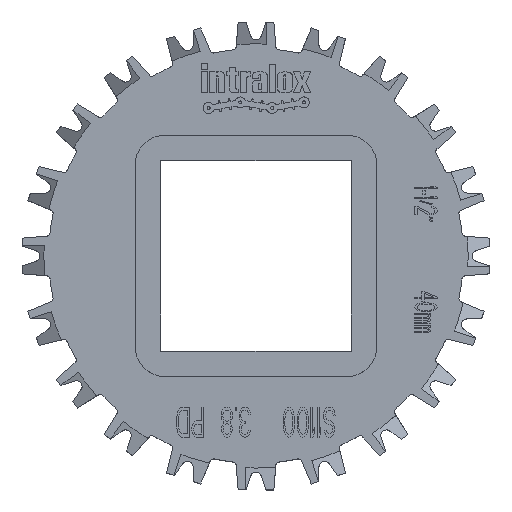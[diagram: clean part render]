
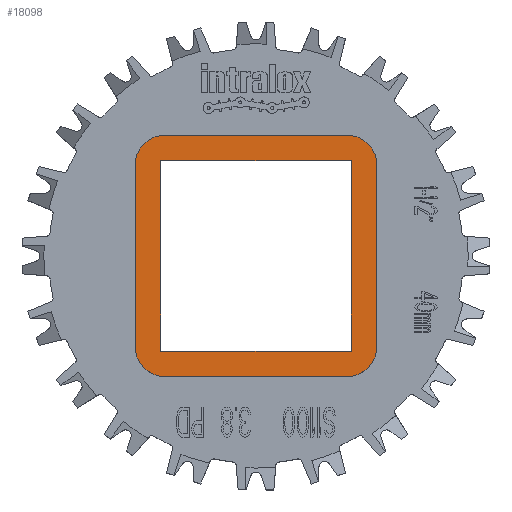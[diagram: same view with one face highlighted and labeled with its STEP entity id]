
A CAD part, top view. The second image highlights one B-rep face of the part: STEP entity #18098.
In plain terms, the highlighted planar face has unit normal (0, 0, 1).
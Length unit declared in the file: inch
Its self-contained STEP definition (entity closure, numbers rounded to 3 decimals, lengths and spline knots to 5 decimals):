
#1=DIRECTION('',(-1.,0.,0.));
#2=VECTOR('',#1,1.5);
#3=CARTESIAN_POINT('',(0.75,1.,0.49));
#4=LINE('',#3,#2);
#5=DIRECTION('',(0.,1.,0.));
#6=VECTOR('',#5,1.5);
#7=CARTESIAN_POINT('',(1.,-0.75,0.49));
#8=LINE('',#7,#6);
#9=DIRECTION('',(1.,0.,0.));
#10=VECTOR('',#9,1.5);
#11=CARTESIAN_POINT('',(-0.75,-1.,0.49));
#12=LINE('',#11,#10);
#13=DIRECTION('',(0.,-1.,0.));
#14=VECTOR('',#13,1.5);
#15=CARTESIAN_POINT('',(-1.,0.75,0.49));
#16=LINE('',#15,#14);
#17=DIRECTION('',(0.,-1.,0.));
#18=VECTOR('',#17,1.575);
#19=CARTESIAN_POINT('',(-0.7875,0.7875,0.49));
#20=LINE('',#19,#18);
#21=DIRECTION('',(1.,0.,0.));
#22=VECTOR('',#21,1.575);
#23=CARTESIAN_POINT('',(-0.7875,-0.7875,0.49));
#24=LINE('',#23,#22);
#25=DIRECTION('',(0.,1.,0.));
#26=VECTOR('',#25,1.575);
#27=CARTESIAN_POINT('',(0.7875,-0.7875,0.49));
#28=LINE('',#27,#26);
#29=DIRECTION('',(-1.,0.,0.));
#30=VECTOR('',#29,1.575);
#31=CARTESIAN_POINT('',(0.7875,0.7875,0.49));
#32=LINE('',#31,#30);
#46=CARTESIAN_POINT('',(-0.75,0.75,0.49));
#47=DIRECTION('',(0.,0.,1.));
#48=DIRECTION('',(0.,1.,0.));
#49=AXIS2_PLACEMENT_3D('',#46,#47,#48);
#64=CARTESIAN_POINT('',(-0.75,-0.75,0.49));
#65=DIRECTION('',(0.,0.,1.));
#66=DIRECTION('',(-1.,0.,0.));
#67=AXIS2_PLACEMENT_3D('',#64,#65,#66);
#82=CARTESIAN_POINT('',(0.75,-0.75,0.49));
#83=DIRECTION('',(0.,0.,1.));
#84=DIRECTION('',(0.,-1.,0.));
#85=AXIS2_PLACEMENT_3D('',#82,#83,#84);
#100=CARTESIAN_POINT('',(0.75,0.75,0.49));
#101=DIRECTION('',(0.,0.,1.));
#102=DIRECTION('',(1.,0.,0.));
#103=AXIS2_PLACEMENT_3D('',#100,#101,#102);
#14057=CARTESIAN_POINT('',(-1.,0.75,0.49));
#14059=VERTEX_POINT('',#14057);
#14061=CARTESIAN_POINT('',(-0.75,1.,0.49));
#14063=VERTEX_POINT('',#14061);
#14065=CARTESIAN_POINT('',(0.75,1.,0.49));
#14067=VERTEX_POINT('',#14065);
#14069=CARTESIAN_POINT('',(1.,0.75,0.49));
#14071=VERTEX_POINT('',#14069);
#14073=CARTESIAN_POINT('',(1.,-0.75,0.49));
#14075=VERTEX_POINT('',#14073);
#14077=CARTESIAN_POINT('',(0.75,-1.,0.49));
#14079=VERTEX_POINT('',#14077);
#14081=CARTESIAN_POINT('',(-0.75,-1.,0.49));
#14083=VERTEX_POINT('',#14081);
#14085=CARTESIAN_POINT('',(-1.,-0.75,0.49));
#14087=VERTEX_POINT('',#14085);
#18049=CARTESIAN_POINT('',(-0.7875,0.7875,0.49));
#18050=CARTESIAN_POINT('',(-0.7875,-0.7875,0.49));
#18051=VERTEX_POINT('',#18049);
#18052=VERTEX_POINT('',#18050);
#18053=CARTESIAN_POINT('',(0.7875,-0.7875,0.49));
#18054=VERTEX_POINT('',#18053);
#18055=CARTESIAN_POINT('',(0.7875,0.7875,0.49));
#18056=VERTEX_POINT('',#18055);
#18065=CARTESIAN_POINT('',(0.,0.,0.49));
#18066=DIRECTION('',(0.,0.,1.));
#18067=DIRECTION('',(1.,0.,0.));
#18068=AXIS2_PLACEMENT_3D('',#18065,#18066,#18067);
#18069=PLANE('',#18068);
#18071=ORIENTED_EDGE('',*,*,#18070,.F.);
#18073=ORIENTED_EDGE('',*,*,#18072,.F.);
#18075=ORIENTED_EDGE('',*,*,#18074,.F.);
#18077=ORIENTED_EDGE('',*,*,#18076,.F.);
#18079=ORIENTED_EDGE('',*,*,#18078,.F.);
#18081=ORIENTED_EDGE('',*,*,#18080,.F.);
#18083=ORIENTED_EDGE('',*,*,#18082,.F.);
#18085=ORIENTED_EDGE('',*,*,#18084,.F.);
#18086=EDGE_LOOP('',(#18071,#18073,#18075,#18077,#18079,#18081,#18083,#18085));
#18087=FACE_OUTER_BOUND('',#18086,.F.);
#18089=ORIENTED_EDGE('',*,*,#18088,.T.);
#18091=ORIENTED_EDGE('',*,*,#18090,.T.);
#18093=ORIENTED_EDGE('',*,*,#18092,.T.);
#18095=ORIENTED_EDGE('',*,*,#18094,.T.);
#18096=EDGE_LOOP('',(#18089,#18091,#18093,#18095));
#18097=FACE_BOUND('',#18096,.F.);
#18098=ADVANCED_FACE('',(#18087,#18097),#18069,.T.);
#50=CIRCLE('',#49,0.25);
#68=CIRCLE('',#67,0.25);
#86=CIRCLE('',#85,0.25);
#104=CIRCLE('',#103,0.25);
#18070=EDGE_CURVE('',#14063,#14059,#50,.T.);
#18072=EDGE_CURVE('',#14067,#14063,#4,.T.);
#18074=EDGE_CURVE('',#14071,#14067,#104,.T.);
#18076=EDGE_CURVE('',#14075,#14071,#8,.T.);
#18078=EDGE_CURVE('',#14079,#14075,#86,.T.);
#18080=EDGE_CURVE('',#14083,#14079,#12,.T.);
#18082=EDGE_CURVE('',#14087,#14083,#68,.T.);
#18084=EDGE_CURVE('',#14059,#14087,#16,.T.);
#18088=EDGE_CURVE('',#18051,#18052,#20,.T.);
#18090=EDGE_CURVE('',#18052,#18054,#24,.T.);
#18092=EDGE_CURVE('',#18054,#18056,#28,.T.);
#18094=EDGE_CURVE('',#18056,#18051,#32,.T.);
